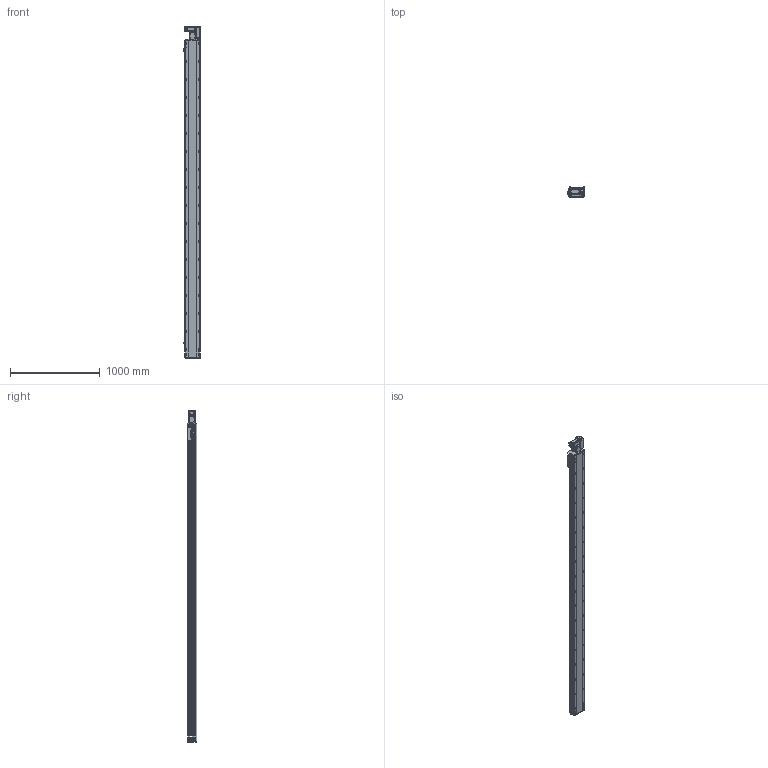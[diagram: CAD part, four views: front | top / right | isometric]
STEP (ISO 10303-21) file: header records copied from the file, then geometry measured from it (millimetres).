
FILE_DESCRIPTION (( 'STEP AP214' ), '1' );
FILE_NAME ('RTB17S-XX-3250-R-M40-C4.STEP', '2025-12-11T08:00:06', ( '' ), ( '' ), 'SwSTEP 2.0', 'SolidWorks 2018', '' );
FILE_SCHEMA (( 'AUTOMOTIVE_DESIGN' ));
Length unit declared in the file: millimetre
Products named in the file (14): RTB14-L-017P^RTB17S-R-々湍釱蚾饜-400W_RTB17S-XX-XX-R-M40-C4; RTB17S-XX-3250-R-M40-C4; RTB14-L-018P^RTB17S-R-々湍釱蚾饜-400W_RTB17S-XX-XX-R-M40-C4; RTB17S-L-004佪裝蹟譫蟀諉釱^RTB17S-XX-XX-R-M40-C4; RTB14-L-005P--轴承塑胶压盖^RTB17S-R-皮带座装配-400W_RTB17S-XX-XX-R-M40-C4; RTB17S-R-々湍釱蚾饜-400W^RTB17S-XX-XX-R-M40-C4; RTB17S-L-007奻裔^RTB17S-XX-XX-R-M40-C4; RTB17-R-011菁釱^RTB17S-XX-XX-R-M40-C4; RTB17S-L-014-T20--々湍釱^RTB17S-R-々湍釱蚾饜-400W_RTB17S-XX-XX-R-M40-C4; RTB14-L-008-M20--萇儂啣^RTB17S-R-々湍釱蚾饜-400W_RTB17S-XX-XX-R-M40-C4; 400W侜督萇儂^RTB17S-XX-XX-R-M40-C4; RTB17S-L-001耜醱啣^RTB17S-XX-XX-R-M40-C4; OMRON EE-SX672 传感器^RTB17S-XX-XX-R-M40-C4; RTH13-BL-012覜茼え俋离^RTB17S-XX-XX-R-M40-C4
Assembly tree (16 placements, depth 3):
  RTB17S-XX-3250-R-M40-C4
    RTB17-R-011菁釱^RTB17S-XX-XX-R-M40-C4
    RTB17S-L-007奻裔^RTB17S-XX-XX-R-M40-C4
    OMRON EE-SX672 传感器^RTB17S-XX-XX-R-M40-C4  x3
    RTB17S-L-001耜醱啣^RTB17S-XX-XX-R-M40-C4
    400W侜督萇儂^RTB17S-XX-XX-R-M40-C4
    RTB17S-L-004佪裝蹟譫蟀諉釱^RTB17S-XX-XX-R-M40-C4
    RTH13-BL-012覜茼え俋离^RTB17S-XX-XX-R-M40-C4
    RTB17S-R-々湍釱蚾饜-400W^RTB17S-XX-XX-R-M40-C4
      RTB17S-L-014-T20--々湍釱^RTB17S-R-々湍釱蚾饜-400W_RTB17S-XX-XX-R-M40-C4
      RTB14-L-005P--轴承塑胶压盖^RTB17S-R-皮带座装配-400W_RTB17S-XX-XX-R-M40-C4
      RTB14-L-008-M20--萇儂啣^RTB17S-R-々湍釱蚾饜-400W_RTB17S-XX-XX-R-M40-C4
      RTB14-L-017P^RTB17S-R-々湍釱蚾饜-400W_RTB17S-XX-XX-R-M40-C4  x2
      RTB14-L-018P^RTB17S-R-々湍釱蚾饜-400W_RTB17S-XX-XX-R-M40-C4
Bounding box: 183.5 x 108 x 3691 mm (x, y, z)
Volume: 30717658.7 mm3; surface area: 3500769.1 mm2
Topology: 15 solids, 15 shells, 2397 faces, 6735 edges, 4401 vertices
Faces by surface type: plane 1092, cylinder 857, bspline 301, cone 139, torus 8
Entity records: 71849 total; most frequent: CARTESIAN_POINT 20540, ORIENTED_EDGE 10314, DIRECTION 9476, EDGE_CURVE 5157, VERTEX_POINT 3389, AXIS2_PLACEMENT_3D 3319, VECTOR 2838, LINE 2838
